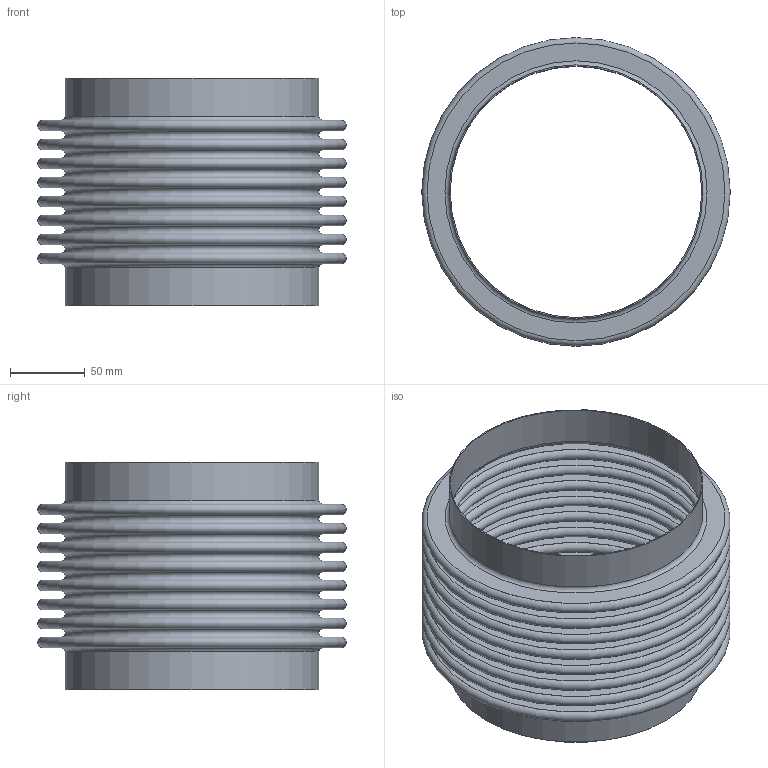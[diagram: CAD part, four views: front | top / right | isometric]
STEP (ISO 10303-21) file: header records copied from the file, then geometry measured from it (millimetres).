
FILE_DESCRIPTION(/* description */ (''),/* implementation_level */ '2;1');
FILE_NAME(/* name */ 'US-6-8-85S.stp',/* time_stamp */ '2026-07-21T11:11:05-05:00',/* author */ ('linda'),/* organization */ (''),/* preprocessor_version */ 'ST-DEVELOPER v20.1',/* originating_system */ 'Autodesk Inventor 2026',/* authorisation */ '');
FILE_SCHEMA (('AUTOMOTIVE_DESIGN { 1 0 10303 214 3 1 1 }'));
Length unit declared in the file: inch
Products named in the file (1): Part3
Bounding box: 206.38 x 206.38 x 152.4 mm (x, y, z)
Volume: 177778.7 mm3; surface area: 469038.6 mm2
Topology: 3 solids, 3 shells, 76 faces, 114 edges, 77 vertices
Faces by surface type: plane 38, torus 34, cylinder 4
Full cylindrical faces by diameter (mm): 168.275 x2, 169.799 x2
Entity records: 1899 total; most frequent: DIRECTION 378, CARTESIAN_POINT 268, ORIENTED_EDGE 228, AXIS2_PLACEMENT_3D 187, EDGE_LOOP 114, EDGE_CURVE 114, CIRCLE 110, STYLED_ITEM 79
